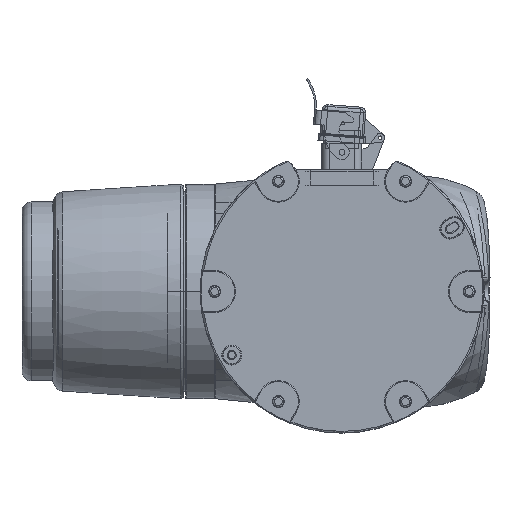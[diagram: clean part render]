
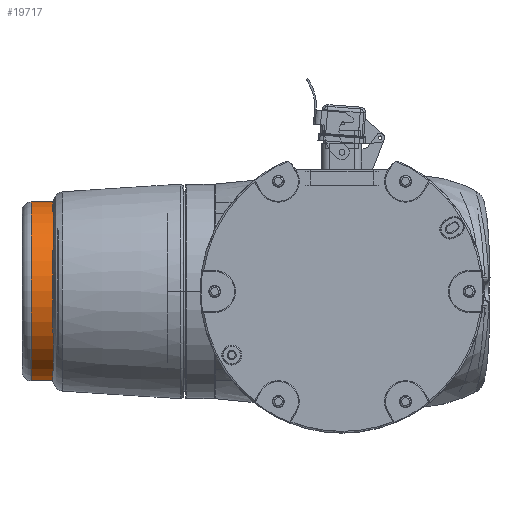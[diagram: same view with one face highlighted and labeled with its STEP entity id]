
A CAD part, front view. The second image highlights one B-rep face of the part: STEP entity #19717.
In plain terms, the highlighted cylindrical face has radius 49.25 mm (diameter 98.5 mm), a partial arc.
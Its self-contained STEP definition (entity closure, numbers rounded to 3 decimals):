
#179 = CARTESIAN_POINT ( 'NONE',  ( -0.5, 0., 0. ) ) ;
#6935 = AXIS2_PLACEMENT_3D ( 'NONE', #179, #40030, #126382 ) ;
#6983 = CARTESIAN_POINT ( 'NONE',  ( -15., 0., 49.25 ) ) ;
#15752 = CYLINDRICAL_SURFACE ( 'NONE', #249910, 49.25 ) ;
#19717 = ADVANCED_FACE ( 'NONE', ( #33096 ), #15752, .T. ) ;
#30001 = DIRECTION ( 'NONE',  ( 1., 0., 0. ) ) ;
#30256 = EDGE_CURVE ( 'NONE', #89523, #141886, #121499, .T. ) ;
#33096 = FACE_OUTER_BOUND ( 'NONE', #222028, .T. ) ;
#33317 = VECTOR ( 'NONE', #30001, 1000. ) ;
#40030 = DIRECTION ( 'NONE',  ( -1., 0., 0. ) ) ;
#61847 = VERTEX_POINT ( 'NONE', #6983 ) ;
#74221 = DIRECTION ( 'NONE',  ( 0., 0., -1. ) ) ;
#81284 = ORIENTED_EDGE ( 'NONE', *, *, #30256, .T. ) ;
#89523 = VERTEX_POINT ( 'NONE', #199246 ) ;
#95526 = CARTESIAN_POINT ( 'NONE',  ( -20., 0., 0. ) ) ;
#98961 = CARTESIAN_POINT ( 'NONE',  ( -0.5, 0., -49.25 ) ) ;
#99389 = DIRECTION ( 'NONE',  ( 1., 0., 0. ) ) ;
#119325 = CARTESIAN_POINT ( 'NONE',  ( -15., 0., 0. ) ) ;
#120695 = ORIENTED_EDGE ( 'NONE', *, *, #232800, .T. ) ;
#121499 = CIRCLE ( 'NONE', #6935, 49.25 ) ;
#126382 = DIRECTION ( 'NONE',  ( 0., 0., -1. ) ) ;
#135428 = DIRECTION ( 'NONE',  ( 0., 0., -1. ) ) ;
#140576 = AXIS2_PLACEMENT_3D ( 'NONE', #119325, #99389, #74221 ) ;
#141512 = DIRECTION ( 'NONE',  ( 1., 0., 0. ) ) ;
#141886 = VERTEX_POINT ( 'NONE', #98961 ) ;
#158790 = CARTESIAN_POINT ( 'NONE',  ( -20., 0., 49.25 ) ) ;
#191566 = CARTESIAN_POINT ( 'NONE',  ( -15., 0., -49.25 ) ) ;
#197307 = LINE ( 'NONE', #253234, #33317 ) ;
#199246 = CARTESIAN_POINT ( 'NONE',  ( -0.5, 0., 49.25 ) ) ;
#199398 = EDGE_CURVE ( 'NONE', #215187, #141886, #197307, .T. ) ;
#201315 = LINE ( 'NONE', #158790, #208927 ) ;
#204344 = CIRCLE ( 'NONE', #140576, 49.25 ) ;
#208927 = VECTOR ( 'NONE', #141512, 1000. ) ;
#215187 = VERTEX_POINT ( 'NONE', #191566 ) ;
#220395 = ORIENTED_EDGE ( 'NONE', *, *, #199398, .F. ) ;
#222028 = EDGE_LOOP ( 'NONE', ( #120695, #234445, #81284, #220395 ) ) ;
#232800 = EDGE_CURVE ( 'NONE', #215187, #61847, #204344, .T. ) ;
#234445 = ORIENTED_EDGE ( 'NONE', *, *, #237616, .T. ) ;
#235065 = DIRECTION ( 'NONE',  ( 1., 0., 0. ) ) ;
#237616 = EDGE_CURVE ( 'NONE', #61847, #89523, #201315, .T. ) ;
#249910 = AXIS2_PLACEMENT_3D ( 'NONE', #95526, #235065, #135428 ) ;
#253234 = CARTESIAN_POINT ( 'NONE',  ( -20., 0., -49.25 ) ) ;
